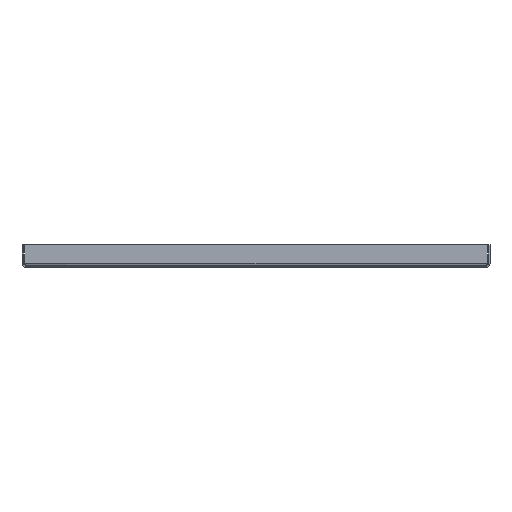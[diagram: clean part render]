
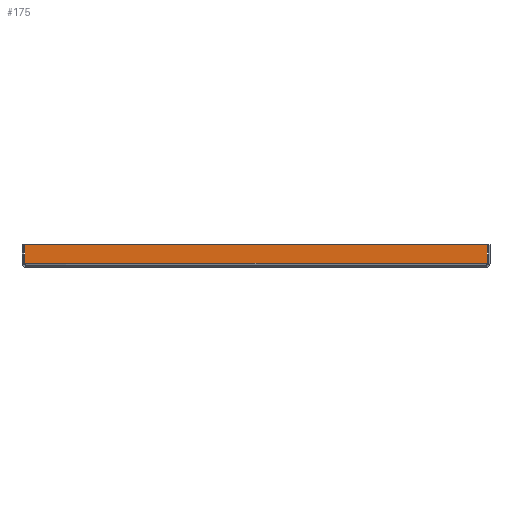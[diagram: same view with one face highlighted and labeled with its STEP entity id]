
A CAD part, front view. The second image highlights one B-rep face of the part: STEP entity #175.
In plain terms, the highlighted planar face has unit normal (0, -1, 0).
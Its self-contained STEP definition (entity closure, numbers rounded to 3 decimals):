
#175=ADVANCED_FACE('',(#4969),#4971,.F.);
#4969=FACE_BOUND('',#4970,.T.);
#4970=EDGE_LOOP('',(#19525,#19526,#19527,#19528));
#4971=PLANE('',#4972);
#4972=AXIS2_PLACEMENT_3D('',#4973,#4974,#4975);
#4973=CARTESIAN_POINT('',(0.,-548.5,0.));
#4974=DIRECTION('',(0.,1.,0.));
#4975=DIRECTION('',(0.,0.,1.));
#19525=ORIENTED_EDGE('',*,*,#29143,.F.);
#19526=ORIENTED_EDGE('',*,*,#29148,.T.);
#19527=ORIENTED_EDGE('',*,*,#29149,.F.);
#19528=ORIENTED_EDGE('',*,*,#29147,.F.);
#29143=EDGE_CURVE('',#37404,#37397,#37407,.T.);
#29147=EDGE_CURVE('',#37397,#37410,#37413,.T.);
#29148=EDGE_CURVE('',#37404,#37414,#37415,.T.);
#29149=EDGE_CURVE('',#37410,#37414,#37416,.T.);
#37397=VERTEX_POINT('',#53425);
#37404=VERTEX_POINT('',#53634);
#37407=LINE('',#53739,#53740);
#37410=VERTEX_POINT('',#53746);
#37413=LINE('',#53753,#53754);
#37414=VERTEX_POINT('',#53756);
#37415=LINE('',#53757,#53758);
#37416=LINE('',#53760,#53761);
#53425=CARTESIAN_POINT('',(-193.793,-548.5,1.8));
#53634=CARTESIAN_POINT('',(193.793,-548.5,1.8));
#53739=CARTESIAN_POINT('',(193.793,-548.5,1.8));
#53740=VECTOR('',#53741,1.);
#53741=DIRECTION('',(-1.,0.,0.));
#53746=CARTESIAN_POINT('',(-193.793,-548.5,17.5));
#53753=CARTESIAN_POINT('',(-193.793,-548.5,1.8));
#53754=VECTOR('',#53755,1.);
#53755=DIRECTION('',(0.,0.,1.));
#53756=CARTESIAN_POINT('',(193.793,-548.5,17.5));
#53757=CARTESIAN_POINT('',(193.793,-548.5,1.8));
#53758=VECTOR('',#53759,1.);
#53759=DIRECTION('',(0.,0.,1.));
#53760=CARTESIAN_POINT('',(-193.793,-548.5,17.5));
#53761=VECTOR('',#53762,1.);
#53762=DIRECTION('',(1.,0.,0.));
